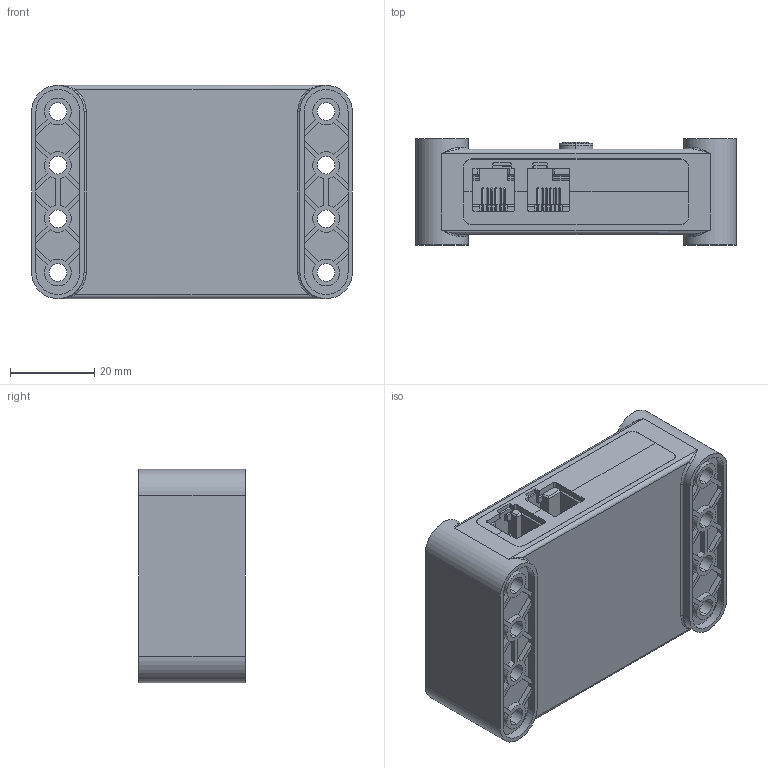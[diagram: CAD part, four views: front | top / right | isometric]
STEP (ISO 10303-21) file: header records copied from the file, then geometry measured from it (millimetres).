
FILE_DESCRIPTION (( 'STEP AP214' ), '1' );
FILE_NAME ('269-6685-000 FOR RELEASE.STEP', '2021-02-19T16:42:34', ( '' ), ( '' ), 'SwSTEP 2.0', 'SolidWorks 2019', '' );
FILE_SCHEMA (( 'AUTOMOTIVE_DESIGN' ));
Length unit declared in the file: millimetre
Products named in the file (1): 269-6685-000 FOR RELEASE
Bounding box: 75.9 x 25.15 x 50.5 mm (x, y, z)
Volume: 68971.7 mm3; surface area: 24540.7 mm2
Topology: 1 solids, 8 shells, 1831 faces, 5198 edges, 3383 vertices
Faces by surface type: plane 915, cylinder 497, bspline 399, torus 18, cone 2
Entity records: 82580 total; most frequent: CARTESIAN_POINT 17469, ORIENTED_EDGE 10356, DIRECTION 9020, EDGE_CURVE 5178, VERTEX_POINT 3383, LINE 3148, VECTOR 3148, AXIS2_PLACEMENT_3D 2936
